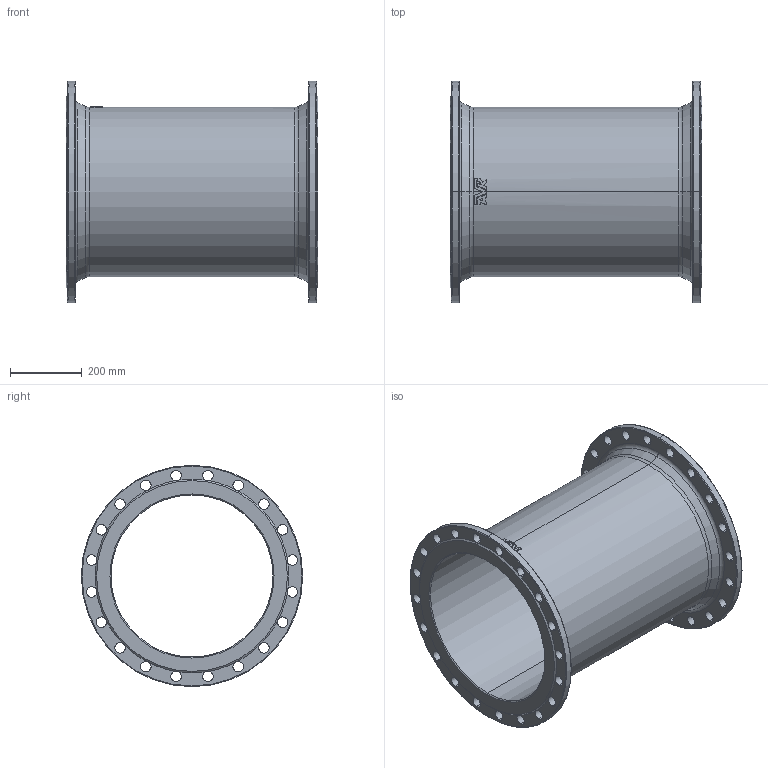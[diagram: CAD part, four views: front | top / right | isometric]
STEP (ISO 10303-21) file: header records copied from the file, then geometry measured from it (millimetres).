
FILE_DESCRIPTION (( 'STEP AP203' ), '1' );
FILE_NAME ('O_712_5010_DN450_0X_REV01.step', '2021-12-03T10:14:22', ( '' ), ( '' ), 'SwSTEP 2.0', 'SolidWorks 2019', '' );
FILE_SCHEMA (( 'CONFIG_CONTROL_DESIGN' ));
Length unit declared in the file: millimetre
Products named in the file (1): O_712_5010_DN450_0X_REV01
Bounding box: 700 x 615 x 615 mm (x, y, z)
Volume: 16544916.7 mm3; surface area: 2535717.2 mm2
Topology: 1 solids, 1 shells, 164 faces, 559 edges, 364 vertices
Faces by surface type: cylinder 93, plane 26, bspline 17, torus 16, cone 12
Entity records: 7682 total; most frequent: CARTESIAN_POINT 2519, ORIENTED_EDGE 1118, DIRECTION 1103, EDGE_CURVE 559, AXIS2_PLACEMENT_3D 478, VERTEX_POINT 364, CIRCLE 330, EDGE_LOOP 213
